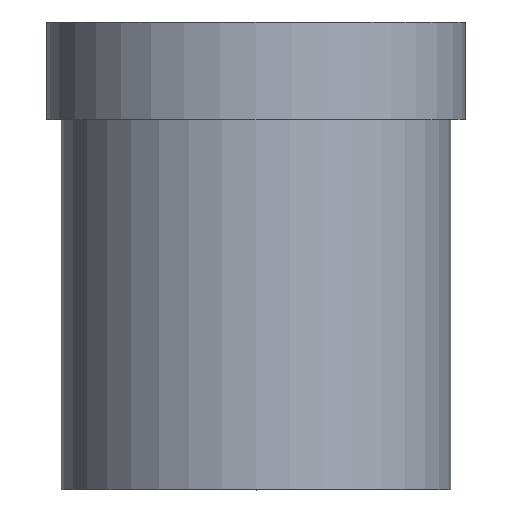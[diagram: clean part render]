
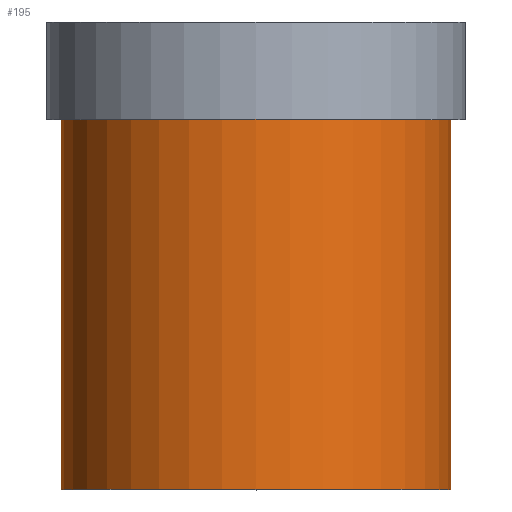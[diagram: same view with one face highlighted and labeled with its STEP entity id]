
A CAD part, top view. The second image highlights one B-rep face of the part: STEP entity #195.
In plain terms, the highlighted cylindrical face has radius 40 mm (diameter 80 mm), a full revolution.
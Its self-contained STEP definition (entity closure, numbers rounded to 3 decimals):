
#32=ORIENTED_EDGE('',*,*,#50,.T.);
#33=ORIENTED_EDGE('',*,*,#49,.F.);
#49=EDGE_CURVE('',#59,#59,#69,.T.);
#50=EDGE_CURVE('',#60,#60,#70,.T.);
#59=VERTEX_POINT('',#280);
#60=VERTEX_POINT('',#283);
#69=CIRCLE('',#213,40.);
#70=CIRCLE('',#215,40.);
#82=EDGE_LOOP('',(#32));
#83=EDGE_LOOP('',(#33));
#102=FACE_BOUND('',#82,.T.);
#103=FACE_BOUND('',#83,.T.);
#117=CYLINDRICAL_SURFACE('',#214,40.);
#195=ADVANCED_FACE('',(#102,#103),#117,.T.);
#213=AXIS2_PLACEMENT_3D('',#279,#241,#242);
#214=AXIS2_PLACEMENT_3D('',#281,#243,#244);
#215=AXIS2_PLACEMENT_3D('',#282,#245,#246);
#241=DIRECTION('',(0.,-1.,0.));
#242=DIRECTION('',(0.,0.,-1.));
#243=DIRECTION('',(0.,-1.,0.));
#244=DIRECTION('',(0.,0.,-1.));
#245=DIRECTION('',(0.,-1.,0.));
#246=DIRECTION('',(0.,0.,-1.));
#279=CARTESIAN_POINT('',(0.,0.,0.));
#280=CARTESIAN_POINT('',(0.,0.,-40.));
#281=CARTESIAN_POINT('',(0.,0.,0.));
#282=CARTESIAN_POINT('',(0.,76.,0.));
#283=CARTESIAN_POINT('',(0.,76.,-40.));
